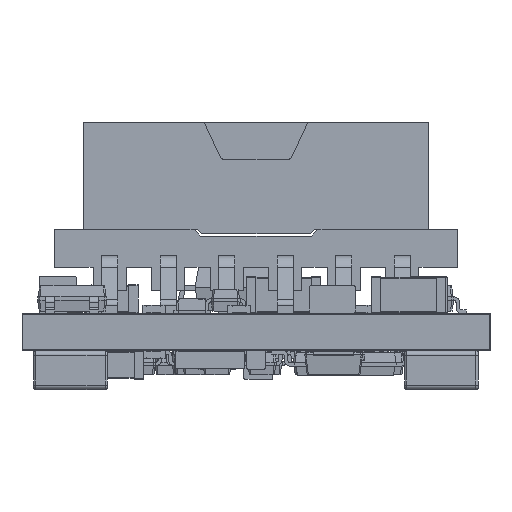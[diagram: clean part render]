
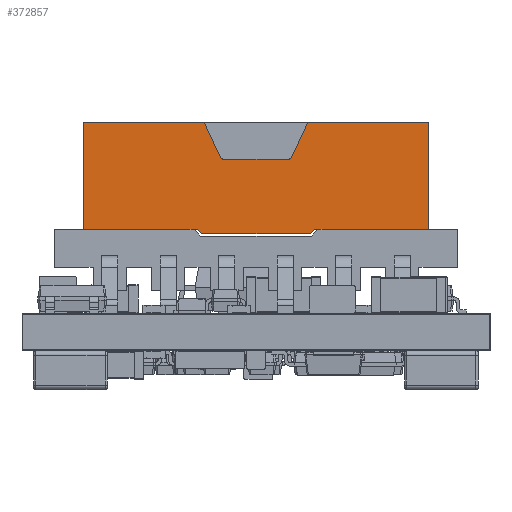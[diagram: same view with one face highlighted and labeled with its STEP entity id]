
A CAD part, left-side view. The second image highlights one B-rep face of the part: STEP entity #372857.
In plain terms, the highlighted face is a extrusion surface.
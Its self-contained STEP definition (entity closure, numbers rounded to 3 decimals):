
#372857 = ADVANCED_FACE('',(#372858),#372992,.T.);
#372858 = FACE_BOUND('',#372859,.T.);
#372859 = EDGE_LOOP('',(#372860,#372870,#372879,#372887,#372896,#372904,
    #372913,#372921,#372930,#372938,#372946,#372954,#372962,#372970,
    #372978,#372986));
#372860 = ORIENTED_EDGE('',*,*,#372861,.T.);
#372861 = EDGE_CURVE('',#372862,#372864,#372866,.T.);
#372862 = VERTEX_POINT('',#372863);
#372863 = CARTESIAN_POINT('',(6.673,0.552,
    8.3));
#372864 = VERTEX_POINT('',#372865);
#372865 = CARTESIAN_POINT('',(6.673,5.706,
    8.3));
#372866 = LINE('',#372867,#372868);
#372867 = CARTESIAN_POINT('',(6.673,0.552,
    8.3));
#372868 = VECTOR('',#372869,1.);
#372869 = DIRECTION('',(0.,1.,0.));
#372870 = ORIENTED_EDGE('',*,*,#372871,.T.);
#372871 = EDGE_CURVE('',#372864,#372872,#372874,.T.);
#372872 = VERTEX_POINT('',#372873);
#372873 = CARTESIAN_POINT('',(6.673,5.842,
    8.213));
#372874 = CIRCLE('',#372875,0.15);
#372875 = AXIS2_PLACEMENT_3D('',#372876,#372877,#372878);
#372876 = CARTESIAN_POINT('',(6.673,5.706,
    8.15));
#372877 = DIRECTION('',(-1.,0.,0.));
#372878 = DIRECTION('',(0.,-1.,0.));
#372879 = ORIENTED_EDGE('',*,*,#372880,.T.);
#372880 = EDGE_CURVE('',#372872,#372881,#372883,.T.);
#372881 = VERTEX_POINT('',#372882);
#372882 = CARTESIAN_POINT('',(6.673,6.511,
    6.778));
#372883 = LINE('',#372884,#372885);
#372884 = CARTESIAN_POINT('',(6.673,5.842,
    8.213));
#372885 = VECTOR('',#372886,1.);
#372886 = DIRECTION('',(0.,0.423,-0.906));
#372887 = ORIENTED_EDGE('',*,*,#372888,.T.);
#372888 = EDGE_CURVE('',#372881,#372889,#372891,.T.);
#372889 = VERTEX_POINT('',#372890);
#372890 = CARTESIAN_POINT('',(6.673,6.647,
    6.692));
#372891 = CIRCLE('',#372892,0.15);
#372892 = AXIS2_PLACEMENT_3D('',#372893,#372894,#372895);
#372893 = CARTESIAN_POINT('',(6.673,6.647,
    6.842));
#372894 = DIRECTION('',(1.,0.,0.));
#372895 = DIRECTION('',(0.,-1.,0.));
#372896 = ORIENTED_EDGE('',*,*,#372897,.T.);
#372897 = EDGE_CURVE('',#372889,#372898,#372900,.T.);
#372898 = VERTEX_POINT('',#372899);
#372899 = CARTESIAN_POINT('',(6.673,9.456,
    6.692));
#372900 = LINE('',#372901,#372902);
#372901 = CARTESIAN_POINT('',(6.673,6.647,
    6.692));
#372902 = VECTOR('',#372903,1.);
#372903 = DIRECTION('',(0.,1.,0.));
#372904 = ORIENTED_EDGE('',*,*,#372905,.T.);
#372905 = EDGE_CURVE('',#372898,#372906,#372908,.T.);
#372906 = VERTEX_POINT('',#372907);
#372907 = CARTESIAN_POINT('',(6.673,9.592,
    6.778));
#372908 = CIRCLE('',#372909,0.15);
#372909 = AXIS2_PLACEMENT_3D('',#372910,#372911,#372912);
#372910 = CARTESIAN_POINT('',(6.673,9.456,
    6.842));
#372911 = DIRECTION('',(1.,0.,0.));
#372912 = DIRECTION('',(0.,-1.,0.));
#372913 = ORIENTED_EDGE('',*,*,#372914,.T.);
#372914 = EDGE_CURVE('',#372906,#372915,#372917,.T.);
#372915 = VERTEX_POINT('',#372916);
#372916 = CARTESIAN_POINT('',(6.673,10.261,
    8.213));
#372917 = LINE('',#372918,#372919);
#372918 = CARTESIAN_POINT('',(6.673,9.592,
    6.778));
#372919 = VECTOR('',#372920,1.);
#372920 = DIRECTION('',(0.,0.423,0.906));
#372921 = ORIENTED_EDGE('',*,*,#372922,.T.);
#372922 = EDGE_CURVE('',#372915,#372923,#372925,.T.);
#372923 = VERTEX_POINT('',#372924);
#372924 = CARTESIAN_POINT('',(6.673,10.397,
    8.3));
#372925 = CIRCLE('',#372926,0.15);
#372926 = AXIS2_PLACEMENT_3D('',#372927,#372928,#372929);
#372927 = CARTESIAN_POINT('',(6.673,10.397,
    8.15));
#372928 = DIRECTION('',(-1.,0.,0.));
#372929 = DIRECTION('',(0.,-1.,0.));
#372930 = ORIENTED_EDGE('',*,*,#372931,.T.);
#372931 = EDGE_CURVE('',#372923,#372932,#372934,.T.);
#372932 = VERTEX_POINT('',#372933);
#372933 = CARTESIAN_POINT('',(6.673,15.552,
    8.3));
#372934 = LINE('',#372935,#372936);
#372935 = CARTESIAN_POINT('',(6.673,10.397,
    8.3));
#372936 = VECTOR('',#372937,1.);
#372937 = DIRECTION('',(0.,1.,0.));
#372938 = ORIENTED_EDGE('',*,*,#372939,.T.);
#372939 = EDGE_CURVE('',#372932,#372940,#372942,.T.);
#372940 = VERTEX_POINT('',#372941);
#372941 = CARTESIAN_POINT('',(6.673,15.552,
    3.65));
#372942 = LINE('',#372943,#372944);
#372943 = CARTESIAN_POINT('',(6.673,15.552,
    8.3));
#372944 = VECTOR('',#372945,1.);
#372945 = DIRECTION('',(0.,0.,-1.));
#372946 = ORIENTED_EDGE('',*,*,#372947,.T.);
#372947 = EDGE_CURVE('',#372940,#372948,#372950,.T.);
#372948 = VERTEX_POINT('',#372949);
#372949 = CARTESIAN_POINT('',(6.673,10.602,
    3.65));
#372950 = LINE('',#372951,#372952);
#372951 = CARTESIAN_POINT('',(6.673,15.552,
    3.65));
#372952 = VECTOR('',#372953,1.);
#372953 = DIRECTION('',(0.,-1.,0.));
#372954 = ORIENTED_EDGE('',*,*,#372955,.T.);
#372955 = EDGE_CURVE('',#372948,#372956,#372958,.T.);
#372956 = VERTEX_POINT('',#372957);
#372957 = CARTESIAN_POINT('',(6.673,10.402,
    3.45));
#372958 = LINE('',#372959,#372960);
#372959 = CARTESIAN_POINT('',(6.673,10.602,
    3.65));
#372960 = VECTOR('',#372961,1.);
#372961 = DIRECTION('',(0.,-0.707,-0.707));
#372962 = ORIENTED_EDGE('',*,*,#372963,.T.);
#372963 = EDGE_CURVE('',#372956,#372964,#372966,.T.);
#372964 = VERTEX_POINT('',#372965);
#372965 = CARTESIAN_POINT('',(6.673,5.702,
    3.45));
#372966 = LINE('',#372967,#372968);
#372967 = CARTESIAN_POINT('',(6.673,10.402,
    3.45));
#372968 = VECTOR('',#372969,1.);
#372969 = DIRECTION('',(0.,-1.,0.));
#372970 = ORIENTED_EDGE('',*,*,#372971,.T.);
#372971 = EDGE_CURVE('',#372964,#372972,#372974,.T.);
#372972 = VERTEX_POINT('',#372973);
#372973 = CARTESIAN_POINT('',(6.673,5.502,
    3.65));
#372974 = LINE('',#372975,#372976);
#372975 = CARTESIAN_POINT('',(6.673,5.702,
    3.45));
#372976 = VECTOR('',#372977,1.);
#372977 = DIRECTION('',(0.,-0.707,0.707));
#372978 = ORIENTED_EDGE('',*,*,#372979,.T.);
#372979 = EDGE_CURVE('',#372972,#372980,#372982,.T.);
#372980 = VERTEX_POINT('',#372981);
#372981 = CARTESIAN_POINT('',(6.673,0.552,
    3.65));
#372982 = LINE('',#372983,#372984);
#372983 = CARTESIAN_POINT('',(6.673,5.502,
    3.65));
#372984 = VECTOR('',#372985,1.);
#372985 = DIRECTION('',(0.,-1.,0.));
#372986 = ORIENTED_EDGE('',*,*,#372987,.T.);
#372987 = EDGE_CURVE('',#372980,#372862,#372988,.T.);
#372988 = LINE('',#372989,#372990);
#372989 = CARTESIAN_POINT('',(6.673,0.552,
    3.65));
#372990 = VECTOR('',#372991,1.);
#372991 = DIRECTION('',(0.,0.,1.));
#372992 = SURFACE_OF_LINEAR_EXTRUSION('',#372993,#372997);
#372993 = LINE('',#372994,#372995);
#372994 = CARTESIAN_POINT('',(6.673,0.552,
    8.3));
#372995 = VECTOR('',#372996,1.);
#372996 = DIRECTION('',(0.,1.,0.));
#372997 = VECTOR('',#372998,1.);
#372998 = DIRECTION('',(0.,0.,-1.));
